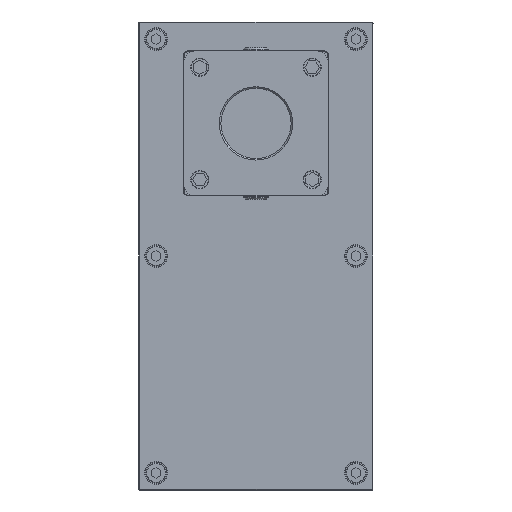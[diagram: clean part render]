
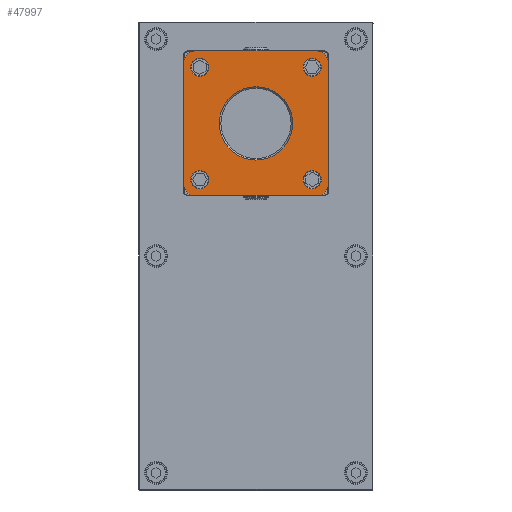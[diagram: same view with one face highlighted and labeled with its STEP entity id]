
A CAD part, front view. The second image highlights one B-rep face of the part: STEP entity #47997.
In plain terms, the highlighted planar face has unit normal (0, -1, 0).
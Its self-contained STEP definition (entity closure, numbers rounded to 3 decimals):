
#47052=CARTESIAN_POINT('',(38.5,-7.,38.5));
#47053=DIRECTION('',(0.,-1.,0.));
#47054=DIRECTION('',(1.,0.,0.));
#47055=AXIS2_PLACEMENT_3D('',#47052,#47053,#47054);
#47057=DIRECTION('',(0.,0.,-1.));
#47058=VECTOR('',#47057,77.);
#47059=CARTESIAN_POINT('',(46.5,-7.,38.5));
#47060=LINE('',#47059,#47058);
#47061=CARTESIAN_POINT('',(38.5,-7.,-38.5));
#47062=DIRECTION('',(0.,-1.,0.));
#47063=DIRECTION('',(0.,0.,-1.));
#47064=AXIS2_PLACEMENT_3D('',#47061,#47062,#47063);
#47066=DIRECTION('',(-1.,0.,0.));
#47067=VECTOR('',#47066,77.);
#47068=CARTESIAN_POINT('',(38.5,-7.,-46.5));
#47069=LINE('',#47068,#47067);
#47070=CARTESIAN_POINT('',(-38.5,-7.,-38.5));
#47071=DIRECTION('',(0.,-1.,0.));
#47072=DIRECTION('',(-1.,0.,0.));
#47073=AXIS2_PLACEMENT_3D('',#47070,#47071,#47072);
#47075=DIRECTION('',(0.,0.,1.));
#47076=VECTOR('',#47075,77.);
#47077=CARTESIAN_POINT('',(-46.5,-7.,-38.5));
#47078=LINE('',#47077,#47076);
#47079=CARTESIAN_POINT('',(-38.5,-7.,38.5));
#47080=DIRECTION('',(0.,-1.,0.));
#47081=DIRECTION('',(0.,0.,1.));
#47082=AXIS2_PLACEMENT_3D('',#47079,#47080,#47081);
#47084=DIRECTION('',(1.,0.,0.));
#47085=VECTOR('',#47084,77.);
#47086=CARTESIAN_POINT('',(-38.5,-7.,46.5));
#47087=LINE('',#47086,#47085);
#47088=CARTESIAN_POINT('',(36.,-7.,-36.));
#47089=DIRECTION('',(0.,1.,0.));
#47090=DIRECTION('',(1.,0.,0.));
#47091=AXIS2_PLACEMENT_3D('',#47088,#47089,#47090);
#47093=CARTESIAN_POINT('',(36.,-7.,-36.));
#47094=DIRECTION('',(0.,1.,0.));
#47095=DIRECTION('',(-1.,0.,0.));
#47096=AXIS2_PLACEMENT_3D('',#47093,#47094,#47095);
#47098=CARTESIAN_POINT('',(36.,-7.,36.));
#47099=DIRECTION('',(0.,1.,0.));
#47100=DIRECTION('',(-1.,0.,0.));
#47101=AXIS2_PLACEMENT_3D('',#47098,#47099,#47100);
#47103=CARTESIAN_POINT('',(36.,-7.,36.));
#47104=DIRECTION('',(0.,1.,0.));
#47105=DIRECTION('',(1.,0.,0.));
#47106=AXIS2_PLACEMENT_3D('',#47103,#47104,#47105);
#47108=CARTESIAN_POINT('',(-36.,-7.,36.));
#47109=DIRECTION('',(0.,1.,0.));
#47110=DIRECTION('',(-1.,0.,0.));
#47111=AXIS2_PLACEMENT_3D('',#47108,#47109,#47110);
#47113=CARTESIAN_POINT('',(-36.,-7.,36.));
#47114=DIRECTION('',(0.,1.,0.));
#47115=DIRECTION('',(1.,0.,0.));
#47116=AXIS2_PLACEMENT_3D('',#47113,#47114,#47115);
#47118=CARTESIAN_POINT('',(-36.,-7.,-36.));
#47119=DIRECTION('',(0.,1.,0.));
#47120=DIRECTION('',(1.,0.,0.));
#47121=AXIS2_PLACEMENT_3D('',#47118,#47119,#47120);
#47123=CARTESIAN_POINT('',(-36.,-7.,-36.));
#47124=DIRECTION('',(0.,1.,0.));
#47125=DIRECTION('',(-1.,0.,0.));
#47126=AXIS2_PLACEMENT_3D('',#47123,#47124,#47125);
#47128=CARTESIAN_POINT('',(0.,-7.,0.));
#47129=DIRECTION('',(0.,1.,0.));
#47130=DIRECTION('',(0.,0.,1.));
#47131=AXIS2_PLACEMENT_3D('',#47128,#47129,#47130);
#47133=CARTESIAN_POINT('',(0.,-7.,0.));
#47134=DIRECTION('',(0.,1.,0.));
#47135=DIRECTION('',(0.,0.,-1.));
#47136=AXIS2_PLACEMENT_3D('',#47133,#47134,#47135);
#47788=CARTESIAN_POINT('',(46.5,-7.,38.5));
#47789=CARTESIAN_POINT('',(38.5,-7.,46.5));
#47790=VERTEX_POINT('',#47788);
#47791=VERTEX_POINT('',#47789);
#47796=CARTESIAN_POINT('',(-38.5,-7.,46.5));
#47797=CARTESIAN_POINT('',(-46.5,-7.,38.5));
#47798=VERTEX_POINT('',#47796);
#47799=VERTEX_POINT('',#47797);
#47804=CARTESIAN_POINT('',(38.5,-7.,-46.5));
#47805=CARTESIAN_POINT('',(46.5,-7.,-38.5));
#47806=VERTEX_POINT('',#47804);
#47807=VERTEX_POINT('',#47805);
#47812=CARTESIAN_POINT('',(-46.5,-7.,-38.5));
#47813=CARTESIAN_POINT('',(-38.5,-7.,-46.5));
#47814=VERTEX_POINT('',#47812);
#47815=VERTEX_POINT('',#47813);
#47836=CARTESIAN_POINT('',(41.8,-7.,-36.));
#47837=CARTESIAN_POINT('',(30.2,-7.,-36.));
#47838=VERTEX_POINT('',#47836);
#47839=VERTEX_POINT('',#47837);
#47844=CARTESIAN_POINT('',(30.2,-7.,36.));
#47845=CARTESIAN_POINT('',(41.8,-7.,36.));
#47846=VERTEX_POINT('',#47844);
#47847=VERTEX_POINT('',#47845);
#47852=CARTESIAN_POINT('',(-41.8,-7.,36.));
#47853=CARTESIAN_POINT('',(-30.2,-7.,36.));
#47854=VERTEX_POINT('',#47852);
#47855=VERTEX_POINT('',#47853);
#47860=CARTESIAN_POINT('',(-30.2,-7.,-36.));
#47861=CARTESIAN_POINT('',(-41.8,-7.,-36.));
#47862=VERTEX_POINT('',#47860);
#47863=VERTEX_POINT('',#47861);
#47936=CARTESIAN_POINT('',(0.,-7.,23.5));
#47937=CARTESIAN_POINT('',(0.,-7.,-23.5));
#47938=VERTEX_POINT('',#47936);
#47939=VERTEX_POINT('',#47937);
#47944=CARTESIAN_POINT('',(0.,-7.,0.));
#47945=DIRECTION('',(0.,1.,0.));
#47946=DIRECTION('',(1.,0.,0.));
#47947=AXIS2_PLACEMENT_3D('',#47944,#47945,#47946);
#47948=PLANE('',#47947);
#47950=ORIENTED_EDGE('',*,*,#47949,.F.);
#47952=ORIENTED_EDGE('',*,*,#47951,.T.);
#47954=ORIENTED_EDGE('',*,*,#47953,.F.);
#47956=ORIENTED_EDGE('',*,*,#47955,.T.);
#47958=ORIENTED_EDGE('',*,*,#47957,.F.);
#47960=ORIENTED_EDGE('',*,*,#47959,.T.);
#47962=ORIENTED_EDGE('',*,*,#47961,.F.);
#47964=ORIENTED_EDGE('',*,*,#47963,.T.);
#47965=EDGE_LOOP('',(#47950,#47952,#47954,#47956,#47958,#47960,#47962,#47964));
#47966=FACE_OUTER_BOUND('',#47965,.F.);
#47968=ORIENTED_EDGE('',*,*,#47967,.F.);
#47970=ORIENTED_EDGE('',*,*,#47969,.F.);
#47971=EDGE_LOOP('',(#47968,#47970));
#47972=FACE_BOUND('',#47971,.F.);
#47974=ORIENTED_EDGE('',*,*,#47973,.F.);
#47976=ORIENTED_EDGE('',*,*,#47975,.F.);
#47977=EDGE_LOOP('',(#47974,#47976));
#47978=FACE_BOUND('',#47977,.F.);
#47980=ORIENTED_EDGE('',*,*,#47979,.F.);
#47982=ORIENTED_EDGE('',*,*,#47981,.F.);
#47983=EDGE_LOOP('',(#47980,#47982));
#47984=FACE_BOUND('',#47983,.F.);
#47986=ORIENTED_EDGE('',*,*,#47985,.F.);
#47988=ORIENTED_EDGE('',*,*,#47987,.F.);
#47989=EDGE_LOOP('',(#47986,#47988));
#47990=FACE_BOUND('',#47989,.F.);
#47992=ORIENTED_EDGE('',*,*,#47991,.F.);
#47994=ORIENTED_EDGE('',*,*,#47993,.F.);
#47995=EDGE_LOOP('',(#47992,#47994));
#47996=FACE_BOUND('',#47995,.F.);
#47997=ADVANCED_FACE('',(#47966,#47972,#47978,#47984,#47990,#47996),#47948,.F.);
#47056=CIRCLE('',#47055,8.);
#47065=CIRCLE('',#47064,8.);
#47074=CIRCLE('',#47073,8.);
#47083=CIRCLE('',#47082,8.);
#47092=CIRCLE('',#47091,5.8);
#47097=CIRCLE('',#47096,5.8);
#47102=CIRCLE('',#47101,5.8);
#47107=CIRCLE('',#47106,5.8);
#47112=CIRCLE('',#47111,5.8);
#47117=CIRCLE('',#47116,5.8);
#47122=CIRCLE('',#47121,5.8);
#47127=CIRCLE('',#47126,5.8);
#47132=CIRCLE('',#47131,23.5);
#47137=CIRCLE('',#47136,23.5);
#47949=EDGE_CURVE('',#47790,#47791,#47056,.T.);
#47951=EDGE_CURVE('',#47790,#47807,#47060,.T.);
#47953=EDGE_CURVE('',#47806,#47807,#47065,.T.);
#47955=EDGE_CURVE('',#47806,#47815,#47069,.T.);
#47957=EDGE_CURVE('',#47814,#47815,#47074,.T.);
#47959=EDGE_CURVE('',#47814,#47799,#47078,.T.);
#47961=EDGE_CURVE('',#47798,#47799,#47083,.T.);
#47963=EDGE_CURVE('',#47798,#47791,#47087,.T.);
#47967=EDGE_CURVE('',#47838,#47839,#47092,.T.);
#47969=EDGE_CURVE('',#47839,#47838,#47097,.T.);
#47973=EDGE_CURVE('',#47846,#47847,#47102,.T.);
#47975=EDGE_CURVE('',#47847,#47846,#47107,.T.);
#47979=EDGE_CURVE('',#47854,#47855,#47112,.T.);
#47981=EDGE_CURVE('',#47855,#47854,#47117,.T.);
#47985=EDGE_CURVE('',#47862,#47863,#47122,.T.);
#47987=EDGE_CURVE('',#47863,#47862,#47127,.T.);
#47991=EDGE_CURVE('',#47938,#47939,#47132,.T.);
#47993=EDGE_CURVE('',#47939,#47938,#47137,.T.);
